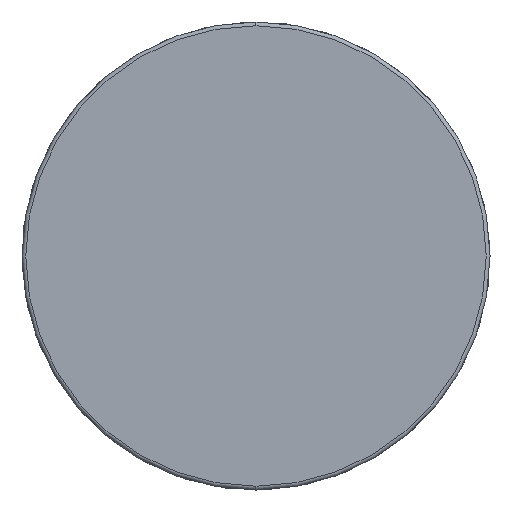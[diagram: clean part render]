
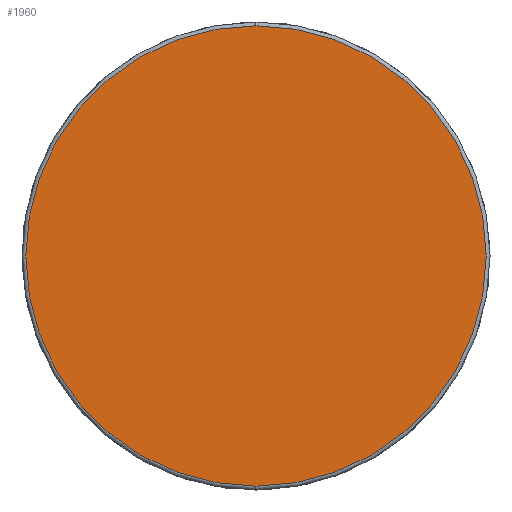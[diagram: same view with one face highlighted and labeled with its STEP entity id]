
A CAD part, left-side view. The second image highlights one B-rep face of the part: STEP entity #1960.
In plain terms, the highlighted planar face has unit normal (-1, 0, 0).
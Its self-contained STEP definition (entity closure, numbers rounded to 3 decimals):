
#140 = DIRECTION ( 'NONE',  ( 0., 0., -1. ) ) ;
#288 = PLANE ( 'NONE',  #2741 ) ;
#333 = AXIS2_PLACEMENT_3D ( 'NONE', #620, #2912, #1850 ) ;
#509 = VERTEX_POINT ( 'NONE', #533 ) ;
#533 = CARTESIAN_POINT ( 'NONE',  ( 0., 0., -30.5 ) ) ;
#620 = CARTESIAN_POINT ( 'NONE',  ( 0., 0., 0. ) ) ;
#639 = DIRECTION ( 'NONE',  ( 1., 0., 0. ) ) ;
#913 = VERTEX_POINT ( 'NONE', #4227 ) ;
#1014 = FACE_OUTER_BOUND ( 'NONE', #4934, .T. ) ;
#1795 = CIRCLE ( 'NONE', #2429, 30.5 ) ;
#1830 = EDGE_CURVE ( 'NONE', #913, #509, #1795, .T. ) ;
#1850 = DIRECTION ( 'NONE',  ( 0., 0., -1. ) ) ;
#1960 = ADVANCED_FACE ( 'NONE', ( #1014 ), #288, .F. ) ;
#1994 = CARTESIAN_POINT ( 'NONE',  ( 0., 0., 0. ) ) ;
#2095 = CIRCLE ( 'NONE', #333, 30.5 ) ;
#2405 = ORIENTED_EDGE ( 'NONE', *, *, #1830, .T. ) ;
#2429 = AXIS2_PLACEMENT_3D ( 'NONE', #1994, #4335, #140 ) ;
#2532 = CARTESIAN_POINT ( 'NONE',  ( 0., 0., 0. ) ) ;
#2741 = AXIS2_PLACEMENT_3D ( 'NONE', #2532, #639, #2878 ) ;
#2878 = DIRECTION ( 'NONE',  ( 0., 0., -1. ) ) ;
#2912 = DIRECTION ( 'NONE',  ( -1., 0., 0. ) ) ;
#3072 = EDGE_CURVE ( 'NONE', #509, #913, #2095, .T. ) ;
#3920 = ORIENTED_EDGE ( 'NONE', *, *, #3072, .T. ) ;
#4227 = CARTESIAN_POINT ( 'NONE',  ( 0., 0., 30.5 ) ) ;
#4335 = DIRECTION ( 'NONE',  ( -1., 0., 0. ) ) ;
#4934 = EDGE_LOOP ( 'NONE', ( #3920, #2405 ) ) ;
